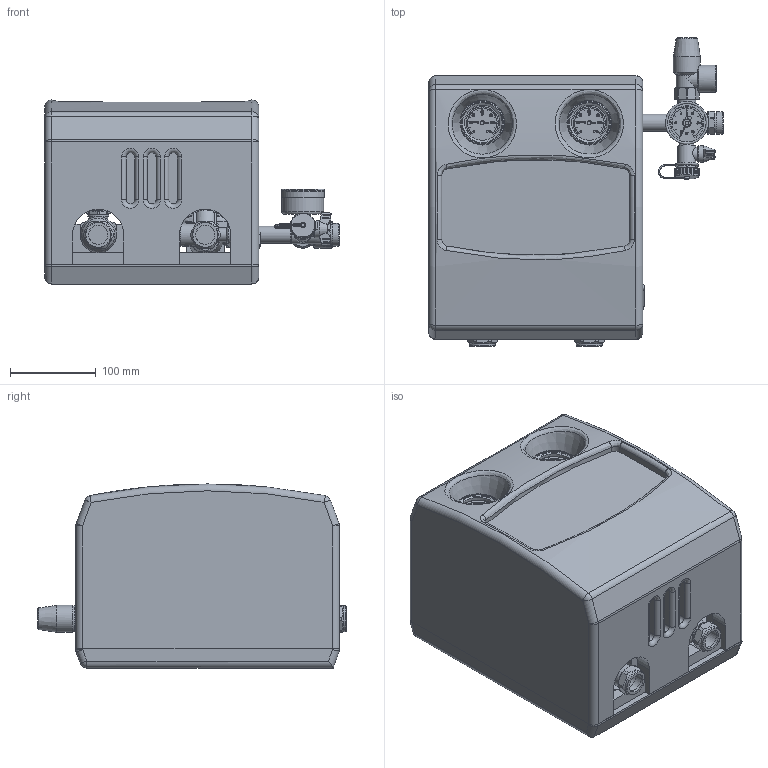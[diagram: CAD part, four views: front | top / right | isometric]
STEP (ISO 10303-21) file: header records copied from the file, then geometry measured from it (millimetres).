
FILE_DESCRIPTION((''),'2;1');
FILE_NAME('C:\Users\duckj\Desktop\FBS8010E 2-16 23062017_001_1.stp','2017-06-23T07:31:30',('duckj'),(''),'Autodesk Inventor 2013','Autodesk Inventor 2013','');
FILE_SCHEMA(('CONFIG_CONTROL_DESIGN'));
Length unit declared in the file: millimetre
Products named in the file (4): 30052017_010; 23062017_001; 29052017_004; 29052017_005
Assembly tree (3 placements, depth 2):
  30052017_010
    23062017_001
    29052017_004
    29052017_005
Bounding box: 344 x 360.5 x 215 mm (x, y, z)
Volume: 13753252 mm3; surface area: 913895.6 mm2
Topology: 4 solids, 4 shells, 4546 faces, 11647 edges, 7401 vertices
Faces by surface type: plane 2413, bspline 851, cylinder 773, torus 201, cone 190, sphere 118
Full cylindrical faces by diameter (mm): 2.601 x2, 4 x2, 5 x2, 6 x5, 6.882 x1, 7.882 x1, 8 x6, 8.5 x2, 9.85 x4, 10 x1, 12 x2, 13.157 x1, 14 x1, 15.5 x1, 16 x4, 17 x1, 17.8 x2, 18 x4, 19.5 x2, 19.8 x1, 20 x4, 20.955 x2, 21 x3, 21.5 x1, 22 x1, 22.2 x4, 22.35 x3, 22.5 x4, 23.5 x1, 23.8 x2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
Entity records: 155372 total; most frequent: CARTESIAN_POINT 48526, ORIENTED_EDGE 22384, DIRECTION 18555, EDGE_CURVE 11192, VERTEX_POINT 7291, VECTOR 6429, LINE 6429, AXIS2_PLACEMENT_3D 6063
